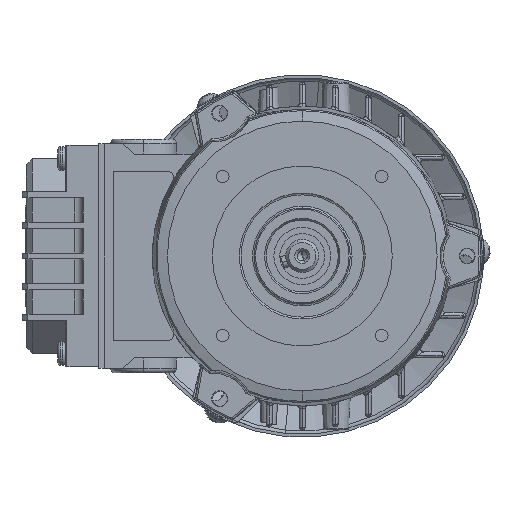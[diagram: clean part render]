
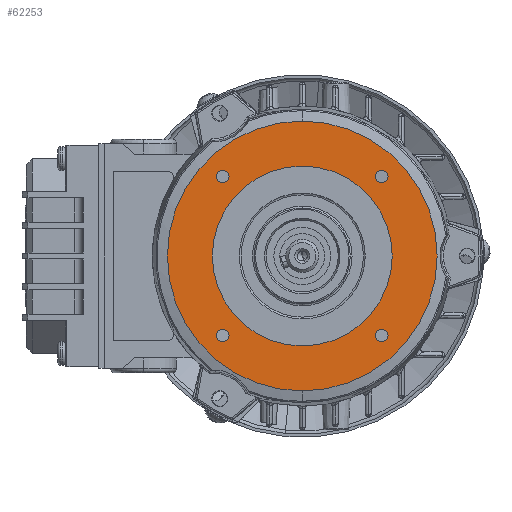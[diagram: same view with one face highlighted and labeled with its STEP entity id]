
A CAD part, left-side view. The second image highlights one B-rep face of the part: STEP entity #62253.
In plain terms, the highlighted planar face has unit normal (-1, 0, 0) as drawn and (0, -1, 0) by its records, which use the part's own axes.
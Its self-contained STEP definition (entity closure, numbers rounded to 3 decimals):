
#3497 = DIRECTION ( 'NONE',  ( 0., 0., 1. ) ) ;
#3533 = CARTESIAN_POINT ( 'NONE',  ( -26.517, 2.5, 26.517 ) ) ;
#7919 = DIRECTION ( 'NONE',  ( 0., 0., 1. ) ) ;
#8148 = AXIS2_PLACEMENT_3D ( 'NONE', #82846, #33610, #91112 ) ;
#8504 = EDGE_CURVE ( 'NONE', #37020, #23862, #17498, .T. ) ;
#8585 = FACE_BOUND ( 'NONE', #82991, .T. ) ;
#9221 = CARTESIAN_POINT ( 'NONE',  ( 26.517, 2.5, 26.517 ) ) ;
#9425 = ORIENTED_EDGE ( 'NONE', *, *, #36563, .T. ) ;
#10091 = VERTEX_POINT ( 'NONE', #72210 ) ;
#11144 = FACE_BOUND ( 'NONE', #80565, .T. ) ;
#11783 = DIRECTION ( 'NONE',  ( 0., 0., 1. ) ) ;
#12242 = ORIENTED_EDGE ( 'NONE', *, *, #26253, .T. ) ;
#13901 = DIRECTION ( 'NONE',  ( 0., 1., 0. ) ) ;
#17474 = DIRECTION ( 'NONE',  ( 0., 0., 1. ) ) ;
#17498 = CIRCLE ( 'NONE', #35295, 2.1 ) ;
#18524 = VERTEX_POINT ( 'NONE', #31794 ) ;
#20467 = DIRECTION ( 'NONE',  ( 0., 1., 0. ) ) ;
#20882 = DIRECTION ( 'NONE',  ( 0., 1., 0. ) ) ;
#21190 = CARTESIAN_POINT ( 'NONE',  ( 0., 2.5, 0. ) ) ;
#21362 = AXIS2_PLACEMENT_3D ( 'NONE', #70075, #20882, #78308 ) ;
#23862 = VERTEX_POINT ( 'NONE', #60100 ) ;
#24166 = AXIS2_PLACEMENT_3D ( 'NONE', #69684, #20467, #77923 ) ;
#24491 = VERTEX_POINT ( 'NONE', #95841 ) ;
#24579 = CIRCLE ( 'NONE', #59599, 2.1 ) ;
#24913 = VERTEX_POINT ( 'NONE', #31903 ) ;
#26253 = EDGE_CURVE ( 'NONE', #18524, #24913, #36283, .T. ) ;
#26361 = AXIS2_PLACEMENT_3D ( 'NONE', #106266, #57105, #7919 ) ;
#27553 = EDGE_CURVE ( 'NONE', #23862, #37020, #87524, .T. ) ;
#27619 = DIRECTION ( 'NONE',  ( 0., 1., 0. ) ) ;
#27919 = AXIS2_PLACEMENT_3D ( 'NONE', #43159, #100672, #51400 ) ;
#28772 = AXIS2_PLACEMENT_3D ( 'NONE', #101898, #52620, #3497 ) ;
#29411 = DIRECTION ( 'NONE',  ( 0., 0., 1. ) ) ;
#30287 = CIRCLE ( 'NONE', #24166, 2.1 ) ;
#30364 = FACE_BOUND ( 'NONE', #91124, .T. ) ;
#30401 = ORIENTED_EDGE ( 'NONE', *, *, #58986, .T. ) ;
#30853 = VERTEX_POINT ( 'NONE', #36654 ) ;
#31794 = CARTESIAN_POINT ( 'NONE',  ( -26.517, 2.5, -24.417 ) ) ;
#31903 = CARTESIAN_POINT ( 'NONE',  ( -26.517, 2.5, -28.617 ) ) ;
#31958 = CARTESIAN_POINT ( 'NONE',  ( -26.517, 2.5, 26.517 ) ) ;
#32214 = CARTESIAN_POINT ( 'NONE',  ( 0., 2.5, 0. ) ) ;
#32451 = ORIENTED_EDGE ( 'NONE', *, *, #92056, .T. ) ;
#32493 = CARTESIAN_POINT ( 'NONE',  ( -26.517, 2.5, 28.617 ) ) ;
#33048 = AXIS2_PLACEMENT_3D ( 'NONE', #63131, #13901, #71326 ) ;
#33610 = DIRECTION ( 'NONE',  ( 0., 1., 0. ) ) ;
#35205 = CIRCLE ( 'NONE', #26361, 45. ) ;
#35295 = AXIS2_PLACEMENT_3D ( 'NONE', #31958, #89502, #40244 ) ;
#35631 = ORIENTED_EDGE ( 'NONE', *, *, #45614, .F. ) ;
#36283 = CIRCLE ( 'NONE', #33048, 2.1 ) ;
#36563 = EDGE_CURVE ( 'NONE', #63576, #86373, #45050, .T. ) ;
#36654 = CARTESIAN_POINT ( 'NONE',  ( 0., 2.5, 45. ) ) ;
#37020 = VERTEX_POINT ( 'NONE', #32493 ) ;
#37040 = PLANE ( 'NONE',  #21362 ) ;
#39071 = EDGE_LOOP ( 'NONE', ( #30401, #56056 ) ) ;
#39236 = CARTESIAN_POINT ( 'NONE',  ( 0., 2.5, -30. ) ) ;
#39958 = ORIENTED_EDGE ( 'NONE', *, *, #71228, .T. ) ;
#40244 = DIRECTION ( 'NONE',  ( 0., 0., 1. ) ) ;
#40481 = DIRECTION ( 'NONE',  ( 0., 0., 1. ) ) ;
#40835 = EDGE_CURVE ( 'NONE', #24913, #18524, #49855, .T. ) ;
#41409 = AXIS2_PLACEMENT_3D ( 'NONE', #3533, #61011, #11783 ) ;
#41899 = EDGE_CURVE ( 'NONE', #105573, #30853, #84446, .T. ) ;
#43159 = CARTESIAN_POINT ( 'NONE',  ( 26.517, 2.5, 26.517 ) ) ;
#43732 = EDGE_LOOP ( 'NONE', ( #9425, #39958 ) ) ;
#45050 = CIRCLE ( 'NONE', #58613, 30. ) ;
#45614 = EDGE_CURVE ( 'NONE', #30853, #105573, #35205, .T. ) ;
#48748 = VERTEX_POINT ( 'NONE', #100940 ) ;
#49626 = FACE_BOUND ( 'NONE', #43732, .T. ) ;
#49855 = CIRCLE ( 'NONE', #8148, 2.1 ) ;
#51400 = DIRECTION ( 'NONE',  ( 0., 0., 1. ) ) ;
#52620 = DIRECTION ( 'NONE',  ( 0., 1., 0. ) ) ;
#56056 = ORIENTED_EDGE ( 'NONE', *, *, #58440, .T. ) ;
#57105 = DIRECTION ( 'NONE',  ( 0., 1., 0. ) ) ;
#58440 = EDGE_CURVE ( 'NONE', #69616, #10091, #24579, .T. ) ;
#58613 = AXIS2_PLACEMENT_3D ( 'NONE', #21190, #78645, #29411 ) ;
#58986 = EDGE_CURVE ( 'NONE', #10091, #69616, #99051, .T. ) ;
#59599 = AXIS2_PLACEMENT_3D ( 'NONE', #9221, #66657, #17474 ) ;
#60100 = CARTESIAN_POINT ( 'NONE',  ( -26.517, 2.5, 24.417 ) ) ;
#60949 = CARTESIAN_POINT ( 'NONE',  ( 0., 2.5, 30. ) ) ;
#61011 = DIRECTION ( 'NONE',  ( 0., 1., 0. ) ) ;
#61883 = ORIENTED_EDGE ( 'NONE', *, *, #40835, .T. ) ;
#62253 = ADVANCED_FACE ( 'NONE', ( #11144, #30364, #93396, #8585, #71507, #49626 ), #37040, .F. ) ;
#63131 = CARTESIAN_POINT ( 'NONE',  ( -26.517, 2.5, -26.517 ) ) ;
#63576 = VERTEX_POINT ( 'NONE', #60949 ) ;
#66060 = ORIENTED_EDGE ( 'NONE', *, *, #8504, .T. ) ;
#66657 = DIRECTION ( 'NONE',  ( 0., 1., 0. ) ) ;
#69616 = VERTEX_POINT ( 'NONE', #77400 ) ;
#69684 = CARTESIAN_POINT ( 'NONE',  ( 26.517, 2.5, -26.517 ) ) ;
#70075 = CARTESIAN_POINT ( 'NONE',  ( 30., 2.5, 0. ) ) ;
#70119 = ORIENTED_EDGE ( 'NONE', *, *, #27553, .T. ) ;
#71228 = EDGE_CURVE ( 'NONE', #86373, #63576, #88226, .T. ) ;
#71326 = DIRECTION ( 'NONE',  ( 0., 0., 1. ) ) ;
#71507 = FACE_OUTER_BOUND ( 'NONE', #81930, .T. ) ;
#72210 = CARTESIAN_POINT ( 'NONE',  ( 26.517, 2.5, 28.617 ) ) ;
#76819 = CARTESIAN_POINT ( 'NONE',  ( 26.517, 2.5, -26.517 ) ) ;
#77400 = CARTESIAN_POINT ( 'NONE',  ( 26.517, 2.5, 24.417 ) ) ;
#77923 = DIRECTION ( 'NONE',  ( 0., 0., 1. ) ) ;
#78308 = DIRECTION ( 'NONE',  ( 0., 0., 1. ) ) ;
#78645 = DIRECTION ( 'NONE',  ( 0., 1., 0. ) ) ;
#80565 = EDGE_LOOP ( 'NONE', ( #12242, #61883 ) ) ;
#81930 = EDGE_LOOP ( 'NONE', ( #35631, #101122 ) ) ;
#82846 = CARTESIAN_POINT ( 'NONE',  ( -26.517, 2.5, -26.517 ) ) ;
#82991 = EDGE_LOOP ( 'NONE', ( #66060, #70119 ) ) ;
#84446 = CIRCLE ( 'NONE', #90126, 45. ) ;
#85132 = DIRECTION ( 'NONE',  ( 0., 0., 1. ) ) ;
#86373 = VERTEX_POINT ( 'NONE', #39236 ) ;
#87308 = ORIENTED_EDGE ( 'NONE', *, *, #94687, .T. ) ;
#87524 = CIRCLE ( 'NONE', #41409, 2.1 ) ;
#88226 = CIRCLE ( 'NONE', #28772, 30. ) ;
#88964 = CIRCLE ( 'NONE', #92205, 2.1 ) ;
#89105 = CARTESIAN_POINT ( 'NONE',  ( 0., 2.5, -45. ) ) ;
#89502 = DIRECTION ( 'NONE',  ( 0., 1., 0. ) ) ;
#89746 = DIRECTION ( 'NONE',  ( 0., 1., 0. ) ) ;
#90126 = AXIS2_PLACEMENT_3D ( 'NONE', #32214, #89746, #40481 ) ;
#91112 = DIRECTION ( 'NONE',  ( 0., 0., 1. ) ) ;
#91124 = EDGE_LOOP ( 'NONE', ( #32451, #87308 ) ) ;
#92056 = EDGE_CURVE ( 'NONE', #24491, #48748, #88964, .T. ) ;
#92205 = AXIS2_PLACEMENT_3D ( 'NONE', #76819, #27619, #85132 ) ;
#93396 = FACE_BOUND ( 'NONE', #39071, .T. ) ;
#94687 = EDGE_CURVE ( 'NONE', #48748, #24491, #30287, .T. ) ;
#95841 = CARTESIAN_POINT ( 'NONE',  ( 26.517, 2.5, -24.417 ) ) ;
#99051 = CIRCLE ( 'NONE', #27919, 2.1 ) ;
#100672 = DIRECTION ( 'NONE',  ( 0., 1., 0. ) ) ;
#100940 = CARTESIAN_POINT ( 'NONE',  ( 26.517, 2.5, -28.617 ) ) ;
#101122 = ORIENTED_EDGE ( 'NONE', *, *, #41899, .F. ) ;
#101898 = CARTESIAN_POINT ( 'NONE',  ( 0., 2.5, 0. ) ) ;
#105573 = VERTEX_POINT ( 'NONE', #89105 ) ;
#106266 = CARTESIAN_POINT ( 'NONE',  ( 0., 2.5, 0. ) ) ;
